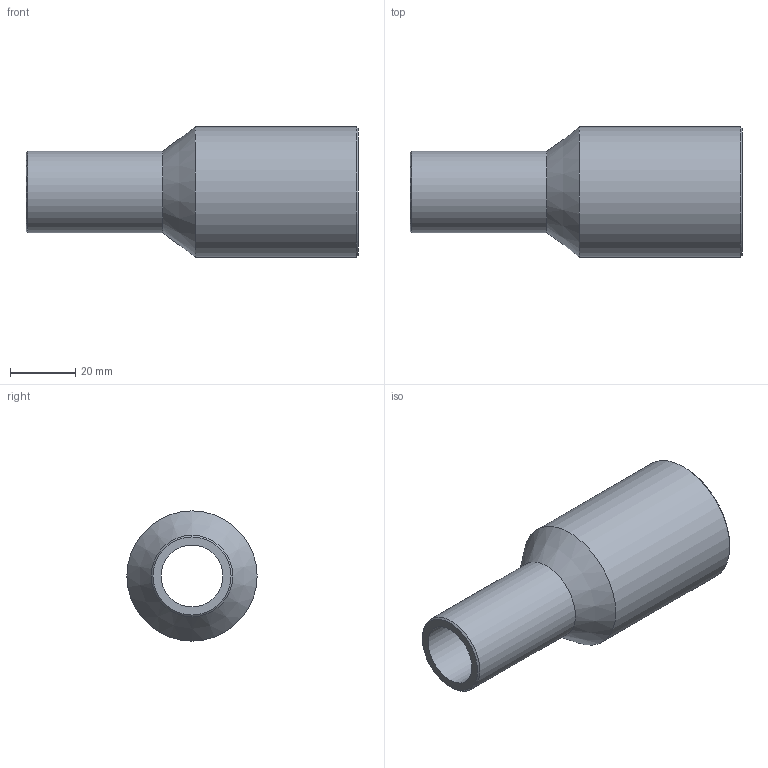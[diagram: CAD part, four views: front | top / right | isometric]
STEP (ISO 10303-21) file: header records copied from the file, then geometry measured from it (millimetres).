
FILE_DESCRIPTION(/* description */ ('Unknown'),/* implementation_level */ '2;1');
FILE_NAME(/* name */ 'RP040025C',/* time_stamp */ '2021-09-17T14:52:16+02:00',/* author */ ('Unknown'),/* organization */ ('Unknown'),/* preprocessor_version */ 'ST-DEVELOPER v16.7',/* originating_system */ 'Solid Edge',/* authorisation */ 'Unknown');
FILE_SCHEMA (('AUTOMOTIVE_DESIGN {1 0 10303 214 3 1 1}'));
Length unit declared in the file: millimetre
Products named in the file (1): RP040025C
Bounding box: 102 x 40 x 40 mm (x, y, z)
Volume: 34276.8 mm3; surface area: 19915.1 mm2
Topology: 1 solids, 1 shells, 10 faces, 19 edges, 11 vertices
Faces by surface type: cylinder 4, cone 4, plane 2
Full cylindrical faces by diameter (mm): 19 x1, 25 x1, 32.6 x1, 40 x1
Entity records: 238 total; most frequent: DIRECTION 42, CARTESIAN_POINT 31, AXIS2_PLACEMENT_3D 21, ORIENTED_EDGE 20, EDGE_LOOP 20, FACE_BOUND 20, EDGE_CURVE 10, VERTEX_POINT 10
